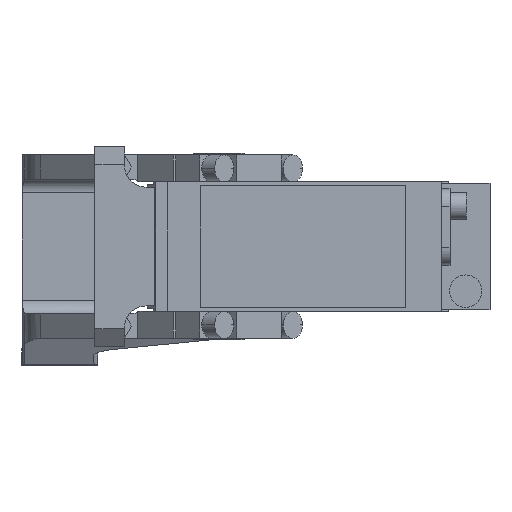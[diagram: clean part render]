
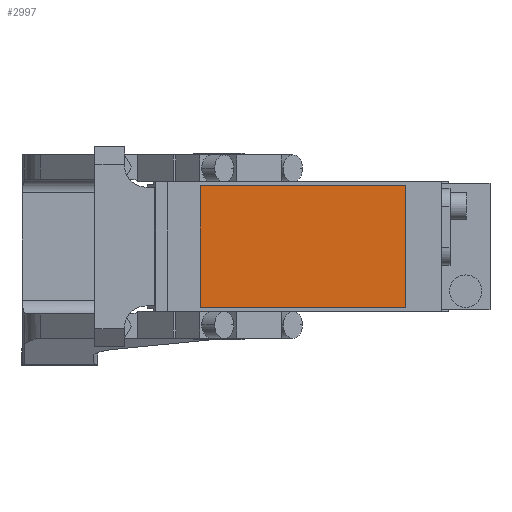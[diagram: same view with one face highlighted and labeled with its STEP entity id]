
A CAD part, front view. The second image highlights one B-rep face of the part: STEP entity #2997.
In plain terms, the highlighted planar face has unit normal (0, -1, 0).
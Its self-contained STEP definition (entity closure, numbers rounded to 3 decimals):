
#963 = DIRECTION ( 'NONE',  ( 0., 0., 1. ) ) ;
#1039 = AXIS2_PLACEMENT_3D ( 'NONE', #1578, #4164, #9886 ) ;
#1278 = EDGE_CURVE ( 'NONE', #12057, #9047, #14806, .T. ) ;
#1578 = CARTESIAN_POINT ( 'NONE',  ( 0., -280.5, 0. ) ) ;
#2017 = ORIENTED_EDGE ( 'NONE', *, *, #7996, .T. ) ;
#2079 = DIRECTION ( 'NONE',  ( -1., 0., 0. ) ) ;
#2526 = CARTESIAN_POINT ( 'NONE',  ( 69., -280.5, -22.5 ) ) ;
#2997 = ADVANCED_FACE ( 'NONE', ( #10804 ), #12139, .T. ) ;
#3292 = VECTOR ( 'NONE', #8697, 1000. ) ;
#3424 = CARTESIAN_POINT ( 'NONE',  ( -7., -280.5, -22.5 ) ) ;
#4076 = LINE ( 'NONE', #12192, #3292 ) ;
#4164 = DIRECTION ( 'NONE',  ( 0., -1., 0. ) ) ;
#4294 = CARTESIAN_POINT ( 'NONE',  ( 69., -280.5, 22.5 ) ) ;
#4631 = VERTEX_POINT ( 'NONE', #3424 ) ;
#7004 = DIRECTION ( 'NONE',  ( 0., 0., -1. ) ) ;
#7996 = EDGE_CURVE ( 'NONE', #14630, #4631, #10294, .T. ) ;
#8428 = EDGE_LOOP ( 'NONE', ( #2017, #14135, #11176, #13280 ) ) ;
#8697 = DIRECTION ( 'NONE',  ( 1., 0., 0. ) ) ;
#8969 = VECTOR ( 'NONE', #963, 1000. ) ;
#9047 = VERTEX_POINT ( 'NONE', #10235 ) ;
#9124 = EDGE_CURVE ( 'NONE', #9047, #14630, #9226, .T. ) ;
#9226 = LINE ( 'NONE', #13959, #9261 ) ;
#9261 = VECTOR ( 'NONE', #2079, 1000. ) ;
#9886 = DIRECTION ( 'NONE',  ( 0., 0., -1. ) ) ;
#10235 = CARTESIAN_POINT ( 'NONE',  ( 69., -280.5, 22.5 ) ) ;
#10294 = LINE ( 'NONE', #13941, #14912 ) ;
#10804 = FACE_OUTER_BOUND ( 'NONE', #8428, .T. ) ;
#11176 = ORIENTED_EDGE ( 'NONE', *, *, #1278, .T. ) ;
#12057 = VERTEX_POINT ( 'NONE', #2526 ) ;
#12139 = PLANE ( 'NONE',  #1039 ) ;
#12192 = CARTESIAN_POINT ( 'NONE',  ( -7., -280.5, -22.5 ) ) ;
#13280 = ORIENTED_EDGE ( 'NONE', *, *, #9124, .T. ) ;
#13303 = EDGE_CURVE ( 'NONE', #4631, #12057, #4076, .T. ) ;
#13941 = CARTESIAN_POINT ( 'NONE',  ( -7., -280.5, 22.5 ) ) ;
#13959 = CARTESIAN_POINT ( 'NONE',  ( -7., -280.5, 22.5 ) ) ;
#14135 = ORIENTED_EDGE ( 'NONE', *, *, #13303, .T. ) ;
#14630 = VERTEX_POINT ( 'NONE', #15097 ) ;
#14806 = LINE ( 'NONE', #4294, #8969 ) ;
#14912 = VECTOR ( 'NONE', #7004, 1000. ) ;
#15097 = CARTESIAN_POINT ( 'NONE',  ( -7., -280.5, 22.5 ) ) ;
